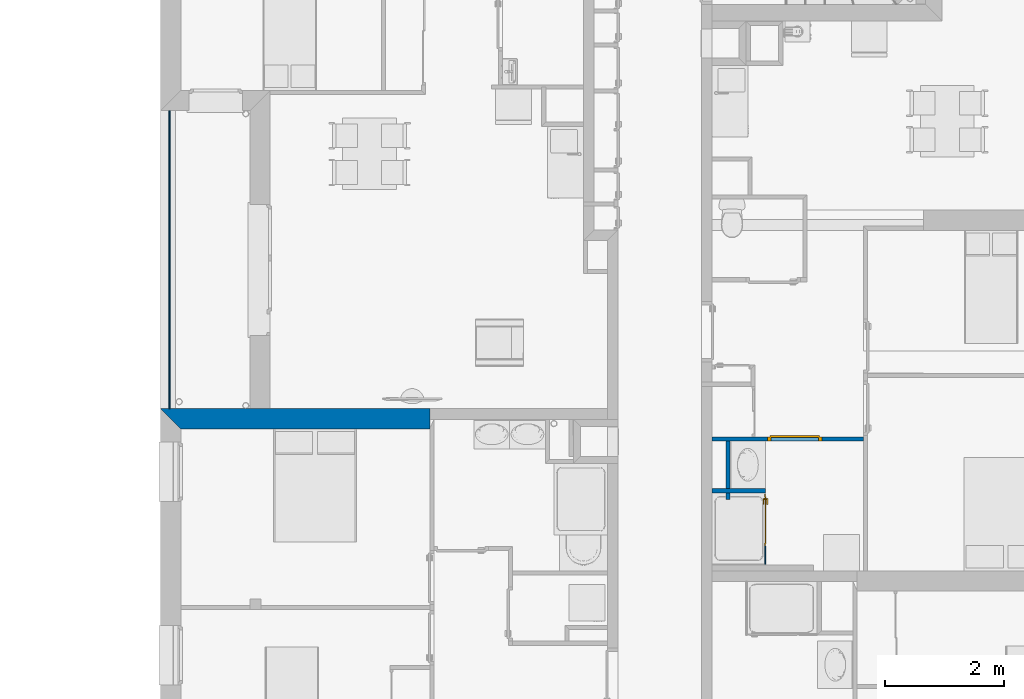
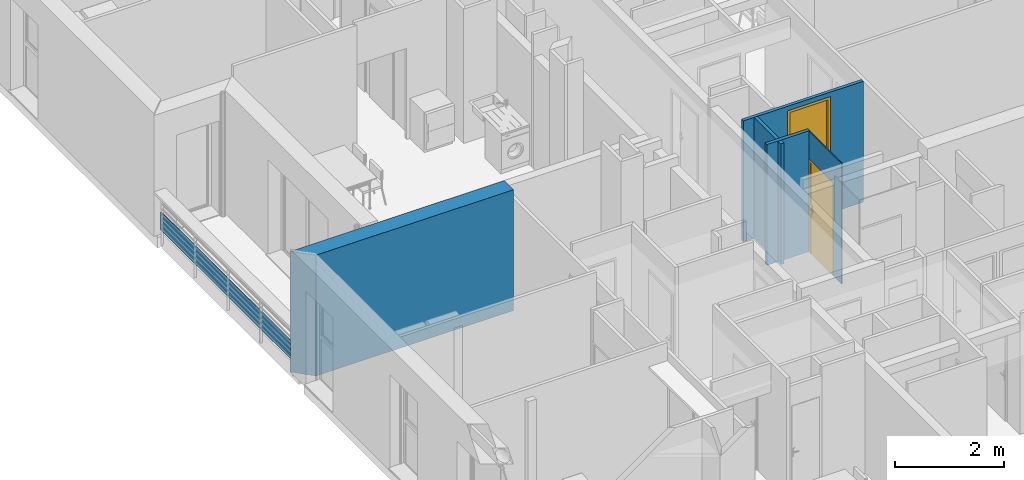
# One storey, part 34 of 171: 6 walls, 2 doors, 2 openings.
"""IFC2X3 building model written with IfcOpenShell, lengths in millimetres."""

from ifc_helpers import new_model, entity, si_unit, converted_unit, derived_unit, money_unit, direction, frame, origin_with_axes, origin_2d_with_axis, place, context, subcontext, project, spatial, polyline, rectangle, outline, extrude, faceted_brep, source, transform, mapped, material, layer, layer_set, layer_usage, type_object, element, fill, save


model = new_model("IFC2X3")

# Units and contexts
model_context = context("Model", 3, precision=0.01, world=origin_with_axes(), true_north=direction((0.0, 1.0)))
body_context = subcontext(model_context, "Body", "Model", "MODEL_VIEW")
ifc_project = project(units=[si_unit("LENGTHUNIT", "METRE", prefix="MILLI"), si_unit("AREAUNIT", "SQUARE_METRE"), si_unit("VOLUMEUNIT", "CUBIC_METRE"), converted_unit("PLANEANGLEUNIT", "DEGREE", entity("IfcPlaneAngleMeasure", 0.0174532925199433), si_unit("PLANEANGLEUNIT", "RADIAN"), dimensions=[0, 0, 0, 0, 0, 0, 0]), money_unit("USD"), converted_unit("TIMEUNIT", "Year", entity("IfcTimeMeasure", 31557600.0), si_unit("TIMEUNIT", "SECOND"), dimensions=[0, 0, 1, 0, 0, 0, 0]), si_unit("MASSUNIT", "GRAM", prefix="KILO"), si_unit("THERMODYNAMICTEMPERATUREUNIT", "DEGREE_CELSIUS"), si_unit("LUMINOUSINTENSITYUNIT", "LUMEN"), si_unit("ENERGYUNIT", "JOULE", prefix="MEGA"), derived_unit("THERMALCONDUCTANCEUNIT", [(si_unit("POWERUNIT", "WATT"), 1), (si_unit("LENGTHUNIT", "METRE"), -1), (si_unit("THERMODYNAMICTEMPERATUREUNIT", "KELVIN"), -1)]), derived_unit("SPECIFICHEATCAPACITYUNIT", [(si_unit("ENERGYUNIT", "JOULE"), 1), (si_unit("MASSUNIT", "GRAM", prefix="KILO"), -1), (si_unit("THERMODYNAMICTEMPERATUREUNIT", "KELVIN"), -1)]), derived_unit("MASSDENSITYUNIT", [(si_unit("MASSUNIT", "GRAM", prefix="KILO"), 1), (si_unit("VOLUMEUNIT", "CUBIC_METRE"), -1)])], contexts=[model_context])

# Site, building, storey
site_placement = place(None, origin_with_axes())
site = spatial("IfcSite", under=ifc_project, at=site_placement, Name="Site", CompositionType="ELEMENT")
building_placement = place(site_placement, origin_with_axes())
building = spatial("IfcBuilding", under=site, at=building_placement, Name="Bâtiment", CompositionType="ELEMENT")
storey_placement = place(building_placement, frame((0.0, 0.0, 3000.0), z_axis=(0.0, 0.0, 1.0), x_axis=(1.0, 0.0, 0.0)))
storey = spatial("IfcBuildingStorey", under=building, at=storey_placement, Name="rdc", CompositionType="ELEMENT", Elevation=3000.0)

# Wall, opening, door
ifc_material_1 = material(Name="Hachure solide 268963992")
ifc_layer_1 = layer(ifc_material_1, 70.0, ventilated="UNKNOWN")
ifc_layer_set_1 = layer_set([ifc_layer_1], Name="Cloison 70 0826278243")
ifc_layer_usage_1 = layer_usage(ifc_layer_set_1, "AXIS2", "POSITIVE", -70.0)
wall_type_1 = type_object("IfcWallType", Name="Cloison 70 0826278243 70", PredefinedType="NOTDEFINED")
wall_1_placement = place(storey_placement, frame((2225712.318356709, -644489.3213492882, 0.0), z_axis=(0.0, 0.0, 1.0), x_axis=(1.0, 0.0, 0.0)))
wall_1 = element("IfcWallStandardCase", 1, at=wall_1_placement, inside=storey, type_object=wall_type_1, material=ifc_layer_usage_1, Name="Mur-149", context=body_context, shape_type="SweptSolid", body=[
    extrude(outline(polyline([(179.99999999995, -69.99999999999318), (2718.332030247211, -69.99999999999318), (2718.332030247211, 0.0), (179.99999999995, 0.0), (179.99999999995, -69.99999999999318)])), origin_with_axes(), (0.0, 0.0, 1.0), 2700.0),
])
opening_1_placement = place(wall_1_placement, frame((1567.15203090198, 0.0, 520.0000000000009), z_axis=(0.0, 0.0, 1.0), x_axis=(1.0, 0.0, 0.0)))
opening_1 = element("IfcOpeningElement", 2, at=opening_1_placement, cuts=wall_1, Name="Por-278", context=body_context, shape_type="SweptSolid", body=[
    extrude(rectangle(XDim=910.0000000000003, YDim=2080.000000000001, at=origin_2d_with_axis()), frame((0.0, -69.99999999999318, 1040.0), z_axis=(0.0, 1.0, 0.0), x_axis=(1.0, 0.0, 0.0)), (0.0, 0.0, 1.0), 140.0),
])
door_style = type_object("IfcDoorStyle", Name="Porte_1v", ConstructionType="NOTDEFINED", OperationType="NOTDEFINED", ParameterTakesPrecedence=False, Sizeable=False)
shared_shape_1 = source(origin_with_axes(), body_context, "Body", "Brep", [
    faceted_brep([(454.9999999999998, 0.0, 0.0), (414.9999999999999, 0.0, 0.0), (414.9999999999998, 0.0, 2040.0), (-414.9999999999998, 0.0, 2040.0), (-414.9999999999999, 0.0, 0.0), (-454.9999999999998, 0.0, 0.0), (-454.9999999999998, 0.0, 2080.0), (454.9999999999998, 0.0, 2080.0), (454.9999999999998, -69.99999999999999, 0.0), (399.9999999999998, -69.99999999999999, 0.0), (399.9999999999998, -15.0, 0.0), (414.9999999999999, -15.0, 0.0), (414.9999999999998, -15.0, 2040.0), (-414.9999999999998, -15.0, 2040.0), (-414.9999999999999, -15.0, 0.0), (-399.9999999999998, -15.0, 0.0), (-399.9999999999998, -69.99999999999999, 0.0), (-454.9999999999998, -69.99999999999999, 0.0), (-454.9999999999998, -69.99999999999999, 2080.0), (454.9999999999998, -69.99999999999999, 2080.0), (-399.9999999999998, -69.99999999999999, 2025.0), (399.9999999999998, -69.99999999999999, 2025.0), (399.9999999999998, -15.0, 2025.0), (-399.9999999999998, -15.0, 2025.0)], [[[0, 1, 2, 3, 4, 5, 6, 7]], [[0, 8, 9, 10, 11, 1]], [[1, 11, 12, 2]], [[2, 12, 13, 3]], [[3, 13, 14, 4]], [[5, 4, 14, 15, 16, 17]], [[18, 6, 5, 17]], [[19, 7, 6, 18]], [[8, 0, 7, 19]], [[9, 8, 19, 18, 17, 16, 20, 21]], [[10, 9, 21, 22]], [[11, 10, 22, 23, 15, 14, 13, 12]], [[23, 20, 16, 15]], [[22, 21, 20, 23]]]),
    faceted_brep([(-349.9999999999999, -15.0, 900.0), (-389.9999999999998, -15.0, 900.0), (-389.9999999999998, -15.0, 1100.0), (-349.9999999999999, -15.0, 1100.0), (-349.9999999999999, -24.99999999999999, 900.0), (-389.9999999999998, -24.99999999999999, 900.0), (-389.9999999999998, -24.99999999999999, 1100.0), (-349.9999999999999, -24.99999999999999, 1100.0)], [[[0, 1, 2, 3]], [[1, 0, 4, 5]], [[2, 1, 5, 6]], [[3, 2, 6, 7]], [[0, 3, 7, 4]], [[5, 4, 7, 6]]]),
    faceted_brep([(-279.9999999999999, -24.99999999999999, 1000.0), (-379.9999999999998, -24.99999999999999, 1000.0), (-379.9999999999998, -24.99999999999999, 1020.0), (-279.9999999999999, -24.99999999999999, 1020.0), (-279.9999999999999, -44.99999999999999, 1000.0), (-379.9999999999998, -44.99999999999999, 1000.0), (-379.9999999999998, -44.99999999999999, 1020.0), (-279.9999999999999, -44.99999999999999, 1020.0)], [[[0, 1, 2, 3]], [[1, 0, 4, 5]], [[2, 1, 5, 6]], [[3, 2, 6, 7]], [[0, 3, 7, 4]], [[5, 4, 7, 6]]]),
    faceted_brep([(-349.9999999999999, 34.99999999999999, 900.0), (-389.9999999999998, 34.99999999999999, 900.0), (-389.9999999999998, 34.99999999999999, 1100.0), (-349.9999999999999, 34.99999999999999, 1100.0), (-349.9999999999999, 24.99999999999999, 900.0), (-389.9999999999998, 24.99999999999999, 900.0), (-389.9999999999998, 24.99999999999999, 1100.0), (-349.9999999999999, 24.99999999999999, 1100.0)], [[[0, 1, 2, 3]], [[1, 0, 4, 5]], [[2, 1, 5, 6]], [[3, 2, 6, 7]], [[0, 3, 7, 4]], [[5, 4, 7, 6]]]),
    faceted_brep([(-279.9999999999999, 54.99999999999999, 1000.0), (-379.9999999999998, 54.99999999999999, 1000.0), (-379.9999999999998, 54.99999999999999, 1020.0), (-279.9999999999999, 54.99999999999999, 1020.0), (-279.9999999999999, 34.99999999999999, 1000.0), (-379.9999999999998, 34.99999999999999, 1000.0), (-379.9999999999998, 34.99999999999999, 1020.0), (-279.9999999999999, 34.99999999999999, 1020.0)], [[[0, 1, 2, 3]], [[1, 0, 4, 5]], [[2, 1, 5, 6]], [[3, 2, 6, 7]], [[0, 3, 7, 4]], [[5, 4, 7, 6]]]),
    faceted_brep([(-414.9999999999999, 24.99999999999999, 0.0), (414.9999999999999, 24.99999999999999, 0.0), (414.9999999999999, -15.0, 0.0), (-414.9999999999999, -15.0, 0.0), (-414.9999999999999, 24.99999999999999, 2040.0), (414.9999999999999, 24.99999999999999, 2040.0), (414.9999999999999, -15.0, 2040.0), (-414.9999999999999, -15.0, 2040.0)], [[[0, 1, 2, 3]], [[0, 4, 5, 1]], [[1, 5, 6, 2]], [[3, 2, 6, 7]], [[4, 0, 3, 7]], [[5, 4, 7, 6]]]),
])
door_1_placement = place(opening_1_placement, frame((-414.9999999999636, 0.0, 0.0), z_axis=(0.0, 0.0, 1.0), x_axis=(1.0, 0.0, 0.0)))
door_1 = element("IfcDoor", 3, at=door_1_placement, inside=storey, type_object=door_style, Name="Por-278", OverallHeight=2040.0, OverallWidth=830.0, context=body_context, shape_type="MappedRepresentation", body=[
    mapped(shared_shape_1, transform((414.9999999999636, 0.0, 0.0))),
])
fill(opening_1, door_1)

# Walls
ifc_layer_usage_2 = layer_usage(ifc_layer_set_1, "AXIS2", "POSITIVE", -70.0)
wall_2_placement = place(storey_placement, frame((2226190.814608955, -644489.3213492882, 0.0), z_axis=(0.0, 0.0, 1.0), x_axis=(0.0, -1.0, 0.0)))
element("IfcWallStandardCase", 4, at=wall_2_placement, inside=storey, type_object=wall_type_1, material=ifc_layer_usage_2, Name="Mur-149", context=body_context, shape_type="SweptSolid", body=[
    extrude(outline(polyline([(69.99999999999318, -70.00000000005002), (1049.625339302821, -70.00000000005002), (1049.625339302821, 0.0), (69.99999999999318, 0.0), (69.99999999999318, -70.00000000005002)])), origin_with_axes(), (0.0, 0.0, 1.0), 2700.0),
])
ifc_layer_usage_3 = layer_usage(ifc_layer_set_1, "AXIS2", "POSITIVE", -70.0)
wall_3_placement = place(storey_placement, frame((2226790.814608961, -645429.1779274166, 0.0), z_axis=(0.0, 0.0, 1.0), x_axis=(-1.0, 0.0, 0.0)))
element("IfcWallStandardCase", 5, at=wall_3_placement, inside=storey, type_object=wall_type_1, material=ifc_layer_usage_3, Name="Mur-149", context=body_context, shape_type="SweptSolid", body=[
    extrude(outline(polyline([(0.0, -69.99999999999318), (898.496252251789, -69.99999999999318), (898.496252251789, 0.0), (0.0, 0.0), (0.0, -69.99999999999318)])), origin_with_axes(), (0.0, 0.0, 1.0), 2700.0),
])
ifc_material_2 = material(Name="MANQUANT")
ifc_layer_2 = layer(ifc_material_2, 20.0, ventilated="UNKNOWN")
ifc_layer_set_2 = layer_set([ifc_layer_2], Name="MANQUANT 20")
ifc_layer_usage_4 = layer_usage(ifc_layer_set_2, "AXIS2", "NEGATIVE", 20.0)
wall_type_2 = type_object("IfcWallType", Name="MANQUANT 20", PredefinedType="NOTDEFINED")
wall_4_placement = place(storey_placement, frame((2216794.993184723, -644016.3765211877, 100.0000000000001), z_axis=(0.0, 0.0, 1.0), x_axis=(1.325467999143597e-06, 0.9999999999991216, 0.0)))
element("IfcWallStandardCase", 6, at=wall_4_placement, inside=storey, type_object=wall_type_2, material=ifc_layer_usage_4, Name="Mur-152", context=body_context, shape_type="SweptSolid", body=[
    extrude(outline(polyline([(0.0, 0.0), (4999.568821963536, 0.0), (4999.568795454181, 19.99999999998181), (-2.676210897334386e-05, 19.99999999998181), (0.0, 0.0)])), origin_with_axes(), (0.0, 0.0, 1.0), 400.0),
])
ifc_material_3 = material(Name="Parpaing 312445824")
ifc_layer_3 = layer(ifc_material_3, 180.0, ventilated="UNKNOWN")
ifc_material_4 = material(Name="Isolant styromousse 301821074")
ifc_layer_4 = layer(ifc_material_4, 160.0, ventilated="UNKNOWN")
ifc_layer_set_3 = layer_set([ifc_layer_3, ifc_layer_4], Name="isol int 18+16 0018356637")
ifc_layer_usage_5 = layer_usage(ifc_layer_set_3, "AXIS2", "NEGATIVE", 0.0)
wall_type_3 = type_object("IfcWallType", Name="isol int 18+16 0018356637 340", PredefinedType="NOTDEFINED")
wall_5_placement = place(storey_placement, frame((2216634.233344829, -644016.3765232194, 0.0), z_axis=(0.0, 0.0, 1.0), x_axis=(1.0, 1.263819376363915e-08, 0.0)))
element("IfcWallStandardCase", 7, at=wall_5_placement, inside=storey, type_object=wall_type_3, material=ifc_layer_usage_5, Name="Mur-143", context=body_context, shape_type="SweptSolid", body=[
    extrude(outline(polyline([(339.9999955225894, -340.0000000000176), (4518.117824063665, -340.0000000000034), (4518.117822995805, 0.0), (0.0, 0.0), (339.9999955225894, -340.0000000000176)])), origin_with_axes(), (0.0, 0.0, 1.0), 2700.0),
])

# Wall, opening, door
ifc_material_5 = material(Name="Empty Fill 292498448")
ifc_layer_5 = layer(ifc_material_5, 20.0, ventilated="UNKNOWN")
ifc_layer_set_4 = layer_set([ifc_layer_5], Name="mur 2cm")
ifc_layer_usage_6 = layer_usage(ifc_layer_set_4, "AXIS2", "POSITIVE", -20.0)
wall_type_4 = type_object("IfcWallType", Name="mur 2cm 20", PredefinedType="NOTDEFINED")
wall_6_placement = place(storey_placement, frame((2226790.814599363, -645448.0567157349, 0.0), z_axis=(0.0, 0.0, 1.0), x_axis=(-5.073241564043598e-07, -0.9999999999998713, 0.0)))
wall_6 = element("IfcWallStandardCase", 8, at=wall_6_placement, inside=storey, type_object=wall_type_4, material=ifc_layer_usage_6, Name="Mur-148", context=body_context, shape_type="SweptSolid", body=[
    extrude(outline(polyline([(0.0, -19.99999999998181), (1180.110441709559, -19.99999999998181), (1180.110441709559, 0.0), (0.0, 0.0), (0.0, -19.99999999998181)])), origin_with_axes(), (0.0, 0.0, 1.0), 2700.0),
])
opening_2_placement = place(wall_6_placement, frame((440.0000000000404, 1.13686837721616e-10, 0.0), z_axis=(0.0, 0.0, 1.0), x_axis=(1.0, 0.0, 0.0)))
opening_2 = element("IfcOpeningElement", 9, at=opening_2_placement, cuts=wall_6, Name="Por-288", context=body_context, shape_type="SweptSolid", body=[
    extrude(rectangle(XDim=880.0000119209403, YDim=2080.0, at=origin_2d_with_axis()), frame((5.960473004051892e-06, -19.99999999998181, 1040.0), z_axis=(0.0, 1.0, 0.0), x_axis=(1.0, 0.0, 0.0)), (0.0, 0.0, 1.0), 40.0),
])
shared_shape_2 = source(origin_with_axes(), body_context, "Body", "Brep", [
    faceted_brep([(440.0, 0.0, 0.0), (400.0, 0.0, 0.0), (400.0, 0.0, 2040.0), (-400.0, 0.0, 2040.0), (-400.0, 0.0, 0.0), (-440.0, 0.0, 0.0), (-440.0, 0.0, 2080.0), (440.0, 0.0, 2080.0), (440.0, -20.0, 0.0), (385.0, -20.0, 0.0), (385.0, -15.0, 0.0), (400.0, -15.0, 0.0), (400.0, -15.0, 2040.0), (-400.0, -15.0, 2040.0), (-400.0, -15.0, 0.0), (-385.0, -15.0, 0.0), (-385.0, -20.0, 0.0), (-440.0, -20.0, 0.0), (-440.0, -20.0, 2080.0), (440.0, -20.0, 2080.0), (-385.0, -20.0, 2025.0), (385.0, -20.0, 2025.0), (385.0, -15.0, 2025.0), (-385.0, -15.0, 2025.0)], [[[0, 1, 2, 3, 4, 5, 6, 7]], [[0, 8, 9, 10, 11, 1]], [[1, 11, 12, 2]], [[2, 12, 13, 3]], [[3, 13, 14, 4]], [[5, 4, 14, 15, 16, 17]], [[18, 6, 5, 17]], [[19, 7, 6, 18]], [[8, 0, 7, 19]], [[9, 8, 19, 18, 17, 16, 20, 21]], [[10, 9, 21, 22]], [[11, 10, 22, 23, 15, 14, 13, 12]], [[23, 20, 16, 15]], [[22, 21, 20, 23]]]),
    faceted_brep([(-335.0, -15.0, 900.0), (-375.0, -15.0, 900.0), (-375.0, -15.0, 1100.0), (-335.0, -15.0, 1100.0), (-335.0, -25.0, 900.0), (-375.0, -25.0, 900.0), (-375.0, -25.0, 1100.0), (-335.0, -25.0, 1100.0)], [[[0, 1, 2, 3]], [[1, 0, 4, 5]], [[2, 1, 5, 6]], [[3, 2, 6, 7]], [[0, 3, 7, 4]], [[5, 4, 7, 6]]]),
    faceted_brep([(-265.0, -25.0, 1000.0), (-365.0, -25.0, 1000.0), (-365.0, -25.0, 1020.0), (-265.0, -25.0, 1020.0), (-265.0, -45.0, 1000.0), (-365.0, -45.0, 1000.0), (-365.0, -45.0, 1020.0), (-265.0, -45.0, 1020.0)], [[[0, 1, 2, 3]], [[1, 0, 4, 5]], [[2, 1, 5, 6]], [[3, 2, 6, 7]], [[0, 3, 7, 4]], [[5, 4, 7, 6]]]),
    faceted_brep([(-335.0, 15.0, 900.0), (-375.0, 15.0, 900.0), (-375.0, 15.0, 1100.0), (-335.0, 15.0, 1100.0), (-335.0, 5.000000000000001, 900.0), (-375.0, 5.000000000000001, 900.0), (-375.0, 5.000000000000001, 1100.0), (-335.0, 5.000000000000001, 1100.0)], [[[0, 1, 2, 3]], [[1, 0, 4, 5]], [[2, 1, 5, 6]], [[3, 2, 6, 7]], [[0, 3, 7, 4]], [[5, 4, 7, 6]]]),
    faceted_brep([(-265.0, 35.0, 1000.0), (-365.0, 35.0, 1000.0), (-365.0, 35.0, 1020.0), (-265.0, 35.0, 1020.0), (-265.0, 15.0, 1000.0), (-365.0, 15.0, 1000.0), (-365.0, 15.0, 1020.0), (-265.0, 15.0, 1020.0)], [[[0, 1, 2, 3]], [[1, 0, 4, 5]], [[2, 1, 5, 6]], [[3, 2, 6, 7]], [[0, 3, 7, 4]], [[5, 4, 7, 6]]]),
    faceted_brep([(-400.0, 5.000000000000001, 0.0), (400.0, 5.000000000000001, 0.0), (400.0, -15.0, 0.0), (-400.0, -15.0, 0.0), (-400.0, 5.000000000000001, 2040.0), (400.0, 5.000000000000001, 2040.0), (400.0, -15.0, 2040.0), (-400.0, -15.0, 2040.0)], [[[0, 1, 2, 3]], [[0, 4, 5, 1]], [[1, 5, 6, 2]], [[3, 2, 6, 7]], [[4, 0, 3, 7]], [[5, 4, 7, 6]]]),
])
door_2_placement = place(opening_2_placement, frame((-399.9999999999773, 2.273736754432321e-10, 0.0), z_axis=(0.0, 0.0, 1.0), x_axis=(1.0, 0.0, 0.0)))
door_2 = element("IfcDoor", 10, at=door_2_placement, inside=storey, type_object=door_style, Name="Por-288", OverallHeight=2040.0, OverallWidth=800.0, context=body_context, shape_type="MappedRepresentation", body=[
    mapped(shared_shape_2, transform((400.0000000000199, 0.0, 0.0))),
])
fill(opening_2, door_2)

save(model, "model.ifc")
